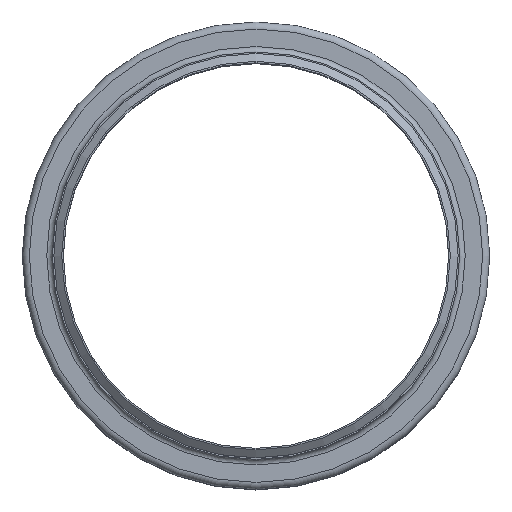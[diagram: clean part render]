
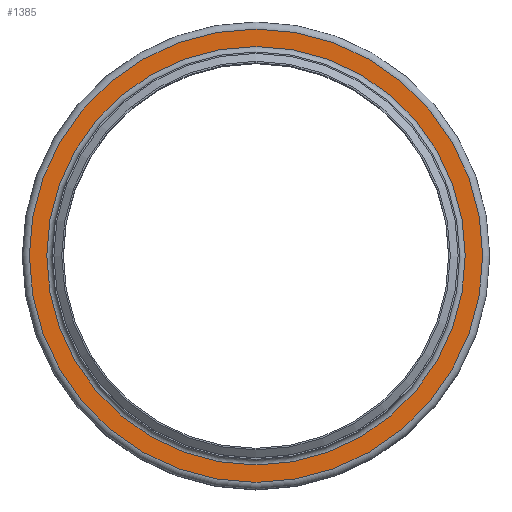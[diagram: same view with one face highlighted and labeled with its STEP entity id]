
A CAD part, top view. The second image highlights one B-rep face of the part: STEP entity #1385.
In plain terms, the highlighted planar face has unit normal (0, 0, 1).
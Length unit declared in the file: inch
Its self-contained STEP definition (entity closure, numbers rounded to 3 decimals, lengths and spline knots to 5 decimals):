
#155=FACE_BOUND('',#416,.T.);
#256=FACE_OUTER_BOUND('',#415,.T.);
#415=EDGE_LOOP('',(#1168));
#416=EDGE_LOOP('',(#1169));
#584=CIRCLE('',#1684,8.28);
#585=CIRCLE('',#1686,8.97);
#703=VERTEX_POINT('',#2631);
#704=VERTEX_POINT('',#2635);
#862=EDGE_CURVE('',#703,#703,#584,.T.);
#863=EDGE_CURVE('',#704,#704,#585,.T.);
#1168=ORIENTED_EDGE('',*,*,#863,.F.);
#1169=ORIENTED_EDGE('',*,*,#862,.T.);
#1284=PLANE('',#1685);
#1385=ADVANCED_FACE('',(#256,#155),#1284,.T.);
#1684=AXIS2_PLACEMENT_3D('',#2633,#2197,#2198);
#1685=AXIS2_PLACEMENT_3D('',#2634,#2199,#2200);
#1686=AXIS2_PLACEMENT_3D('',#2636,#2201,#2202);
#2197=DIRECTION('center_axis',(0.,0.,-1.));
#2198=DIRECTION('ref_axis',(1.,0.,0.));
#2199=DIRECTION('center_axis',(0.,0.,1.));
#2200=DIRECTION('ref_axis',(1.,0.,0.));
#2201=DIRECTION('center_axis',(0.,0.,-1.));
#2202=DIRECTION('ref_axis',(1.,0.,0.));
#2631=CARTESIAN_POINT('',(8.28,0.,-0.22));
#2633=CARTESIAN_POINT('Origin',(0.,0.,-0.22));
#2634=CARTESIAN_POINT('Origin',(0.,8.97,-0.22));
#2635=CARTESIAN_POINT('',(8.97,0.,-0.22));
#2636=CARTESIAN_POINT('Origin',(0.,0.,-0.22));
